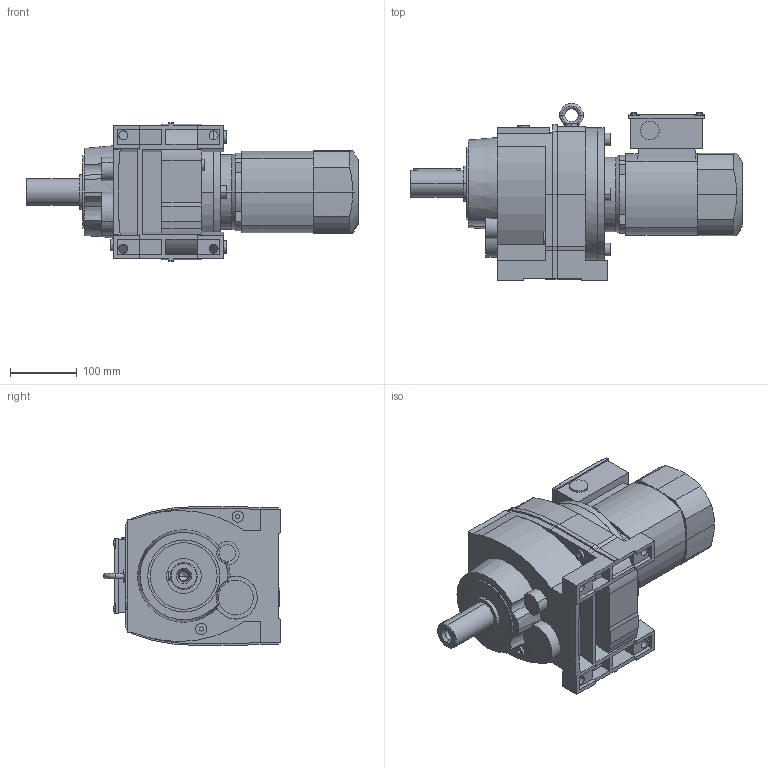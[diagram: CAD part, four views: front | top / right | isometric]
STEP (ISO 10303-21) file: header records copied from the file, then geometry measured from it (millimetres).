
FILE_DESCRIPTION(('STEP AP214'),'1');
FILE_NAME('STEP-File.stp','2018-01-01T00:00:00',(' '),('KEB'),' ','KEB-DRIVE',' ');
FILE_SCHEMA(('AUTOMOTIVE_DESIGN { 1 0 10303 214 1 1 1 1 }'));
Length unit declared in the file: millimetre
Products named in the file (8): g4a; w4_we_40x80; ck4; dm71_kkn; kk08; PLUG_M25; ndm71; G43A DM71G4§CAD13
Assembly tree (7 placements, depth 2):
  G43A DM71G4§CAD13
    g4a
    w4_we_40x80
    ck4
    dm71_kkn
    kk08
    PLUG_M25
    ndm71
Bounding box: 497.5 x 265.5 x 208 mm (x, y, z)
Volume: 10396740.8 mm3; surface area: 567224.9 mm2
Topology: 7 solids, 7 shells, 465 faces, 1300 edges, 949 vertices
Faces by surface type: plane 302, cylinder 102, cone 52, torus 7, bspline 2
Entity records: 17974 total; most frequent: CARTESIAN_POINT 6383, ORIENTED_EDGE 2596, DIRECTION 1899, EDGE_CURVE 1298, VERTEX_POINT 949, VECTOR 907, LINE 907, EDGE_LOOP 577
